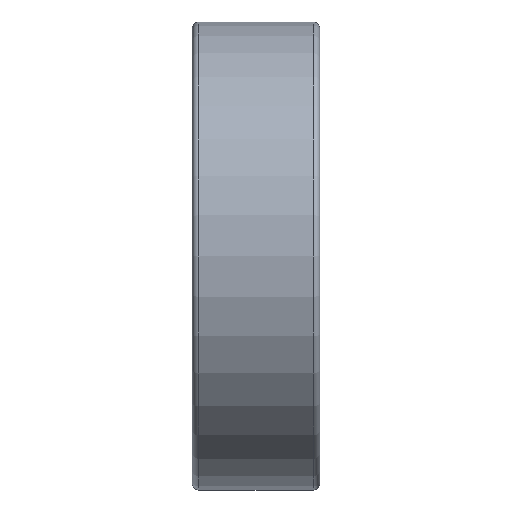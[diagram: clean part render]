
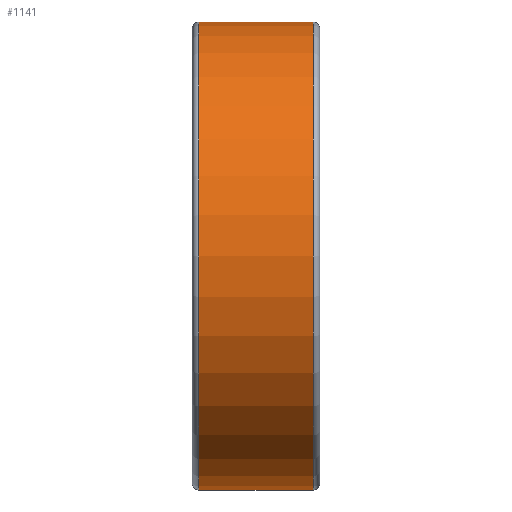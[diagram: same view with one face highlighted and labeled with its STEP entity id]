
A CAD part, front view. The second image highlights one B-rep face of the part: STEP entity #1141.
In plain terms, the highlighted cylindrical face has radius 11 mm (diameter 22 mm), a full revolution.
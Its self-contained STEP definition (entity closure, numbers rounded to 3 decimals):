
#192=CYLINDRICAL_SURFACE($,#1327,11.);
#207=FACE_BOUND($,#352,.T.);
#274=FACE_OUTER_BOUND($,#351,.T.);
#351=EDGE_LOOP($,(#1061));
#352=EDGE_LOOP($,(#1062));
#470=CIRCLE($,#1325,11.);
#472=CIRCLE($,#1328,11.);
#584=VERTEX_POINT($,#3042);
#586=VERTEX_POINT($,#3047);
#745=EDGE_CURVE($,#584,#584,#470,.T.);
#747=EDGE_CURVE($,#586,#586,#472,.T.);
#1061=ORIENTED_EDGE($,*,*,#747,.F.);
#1062=ORIENTED_EDGE($,*,*,#745,.T.);
#1141=ADVANCED_FACE($,(#274,#207),#192,.T.);
#1325=AXIS2_PLACEMENT_3D($,#3043,#1695,#1696);
#1327=AXIS2_PLACEMENT_3D($,#3046,#1699,#1700);
#1328=AXIS2_PLACEMENT_3D($,#3048,#1701,#1702);
#1695=DIRECTION('center_axis',(1.,0.,0.));
#1696=DIRECTION('ref_axis',(0.,0.,-1.));
#1699=DIRECTION('center_axis',(1.,0.,0.));
#1700=DIRECTION('ref_axis',(0.,1.,0.));
#1701=DIRECTION('center_axis',(1.,0.,0.));
#1702=DIRECTION('ref_axis',(0.,0.,-1.));
#3042=CARTESIAN_POINT('',(-2.7,11.,0.));
#3043=CARTESIAN_POINT('Origin',(-2.7,0.,0.));
#3046=CARTESIAN_POINT('Origin',(0.,0.,0.));
#3047=CARTESIAN_POINT('',(2.7,11.,0.));
#3048=CARTESIAN_POINT('Origin',(2.7,0.,0.));
